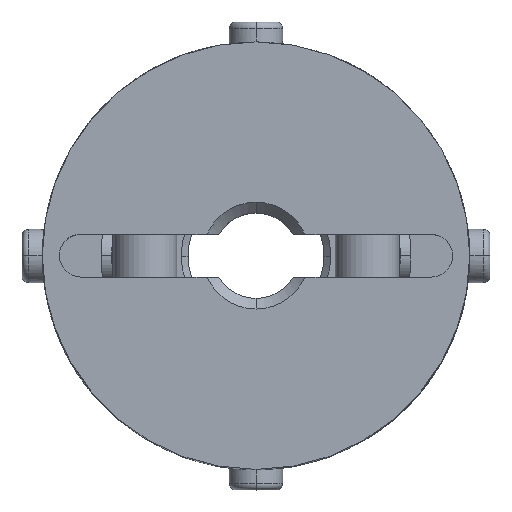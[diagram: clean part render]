
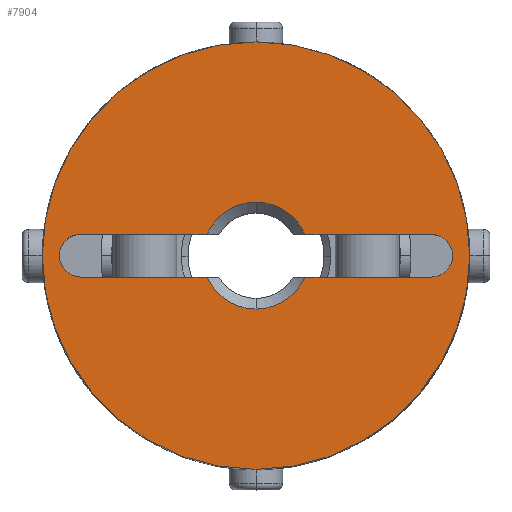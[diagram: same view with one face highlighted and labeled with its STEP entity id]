
A CAD part, top view. The second image highlights one B-rep face of the part: STEP entity #7904.
In plain terms, the highlighted planar face has unit normal (0, 0, 1).
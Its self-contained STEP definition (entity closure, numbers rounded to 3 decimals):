
#633=CARTESIAN_POINT('',(-8.907,-0.707,10.0));
#634=VERTEX_POINT('',#633);
#650=CARTESIAN_POINT('',(-8.2,1.,10.0));
#651=VERTEX_POINT('',#650);
#658=CARTESIAN_POINT('',(-8.2,0.,10.0));
#659=DIRECTION('',(0.0,0.0,1.0));
#660=DIRECTION('',(-0.707,0.707,0.0));
#661=AXIS2_PLACEMENT_3D('',#658,#659,#660);
#662=CIRCLE('',#661,1.);
#663=EDGE_CURVE('',#651,#634,#662,.T.);
#675=CARTESIAN_POINT('',(8.907,0.707,10.0));
#676=VERTEX_POINT('',#675);
#692=CARTESIAN_POINT('',(8.2,-1.,10.0));
#693=VERTEX_POINT('',#692);
#700=CARTESIAN_POINT('',(8.2,0.,10.0));
#701=DIRECTION('',(0.0,0.0,1.0));
#702=DIRECTION('',(0.707,-0.707,0.0));
#703=AXIS2_PLACEMENT_3D('',#700,#701,#702);
#704=CIRCLE('',#703,1.0);
#705=EDGE_CURVE('',#693,#676,#704,.T.);
#715=CARTESIAN_POINT('',(0.,-2.5,10.0));
#716=VERTEX_POINT('',#715);
#724=CARTESIAN_POINT('',(-2.291,-1.,10.0));
#725=VERTEX_POINT('',#724);
#739=CARTESIAN_POINT('',(0.,0.,10.0));
#740=DIRECTION('',(0.0,0.0,1.0));
#741=DIRECTION('',(0.0,-1.0,0.0));
#742=AXIS2_PLACEMENT_3D('',#739,#740,#741);
#743=CIRCLE('',#742,2.5);
#744=EDGE_CURVE('',#725,#716,#743,.T.);
#756=CARTESIAN_POINT('',(0.,2.5,10.0));
#757=VERTEX_POINT('',#756);
#773=CARTESIAN_POINT('',(2.291,1.,10.0));
#774=VERTEX_POINT('',#773);
#788=CARTESIAN_POINT('',(0.,0.,10.0));
#789=DIRECTION('',(0.0,0.0,1.0));
#790=DIRECTION('',(0.0,1.0,0.0));
#791=AXIS2_PLACEMENT_3D('',#788,#789,#790);
#792=CIRCLE('',#791,2.5);
#793=EDGE_CURVE('',#774,#757,#792,.T.);
#1385=CARTESIAN_POINT('',(0.,-10.0,10.0));
#1386=VERTEX_POINT('',#1385);
#1393=CARTESIAN_POINT('',(0.,10.0,10.0));
#1394=VERTEX_POINT('',#1393);
#1395=CARTESIAN_POINT('',(0.0,0.0,10.0));
#1396=DIRECTION('',(0.0,0.0,-1.0));
#1397=DIRECTION('',(0.0,1.0,0.0));
#1398=AXIS2_PLACEMENT_3D('',#1395,#1396,#1397);
#1399=CIRCLE('',#1398,10.0);
#1400=EDGE_CURVE('',#1386,#1394,#1399,.T.);
#7211=CARTESIAN_POINT('',(0.0,0.0,10.0));
#7212=DIRECTION('',(0.0,0.0,-1.0));
#7213=DIRECTION('',(0.0,1.0,0.0));
#7214=AXIS2_PLACEMENT_3D('',#7211,#7212,#7213);
#7215=CIRCLE('',#7214,10.0);
#7216=EDGE_CURVE('',#1394,#1386,#7215,.T.);
#7700=CARTESIAN_POINT('',(2.291,-1.,10.0));
#7701=VERTEX_POINT('',#7700);
#7715=CARTESIAN_POINT('',(8.2,-1.,10.0));
#7716=DIRECTION('',(-1.0,0.0,0.0));
#7717=VECTOR('',#7716,5.909);
#7718=LINE('',#7715,#7717);
#7719=EDGE_CURVE('',#693,#7701,#7718,.T.);
#7778=CARTESIAN_POINT('',(8.2,1.,10.0));
#7779=VERTEX_POINT('',#7778);
#7786=CARTESIAN_POINT('',(2.291,1.,10.0));
#7787=DIRECTION('',(1.0,0.0,0.0));
#7788=VECTOR('',#7787,5.909);
#7789=LINE('',#7786,#7788);
#7790=EDGE_CURVE('',#774,#7779,#7789,.T.);
#7807=CARTESIAN_POINT('',(-2.291,1.,10.0));
#7808=VERTEX_POINT('',#7807);
#7809=CARTESIAN_POINT('',(0.,0.,10.0));
#7810=DIRECTION('',(0.0,0.0,1.0));
#7811=DIRECTION('',(0.0,1.0,0.0));
#7812=AXIS2_PLACEMENT_3D('',#7809,#7810,#7811);
#7813=CIRCLE('',#7812,2.5);
#7814=EDGE_CURVE('',#757,#7808,#7813,.T.);
#7841=CARTESIAN_POINT('',(-8.2,1.,10.0));
#7842=DIRECTION('',(1.0,0.0,0.0));
#7843=VECTOR('',#7842,5.909);
#7844=LINE('',#7841,#7843);
#7845=EDGE_CURVE('',#651,#7808,#7844,.T.);
#7856=CARTESIAN_POINT('',(0.,0.909,10.0));
#7857=DIRECTION('',(0.0,0.0,1.0));
#7858=DIRECTION('',(0.0,1.0,0.0));
#7859=AXIS2_PLACEMENT_3D('',#7856,#7857,#7858);
#7860=PLANE('',#7859);
#7861=ORIENTED_EDGE('',*,*,#7216,.F.);
#7862=ORIENTED_EDGE('',*,*,#1400,.F.);
#7863=EDGE_LOOP('',(#7861,#7862));
#7864=FACE_OUTER_BOUND('',#7863,.T.);
#7865=ORIENTED_EDGE('',*,*,#793,.F.);
#7866=ORIENTED_EDGE('',*,*,#7790,.T.);
#7867=CARTESIAN_POINT('',(8.2,0.,10.0));
#7868=DIRECTION('',(0.0,0.0,1.0));
#7869=DIRECTION('',(0.707,-0.707,0.0));
#7870=AXIS2_PLACEMENT_3D('',#7867,#7868,#7869);
#7871=CIRCLE('',#7870,1.0);
#7872=EDGE_CURVE('',#676,#7779,#7871,.T.);
#7873=ORIENTED_EDGE('',*,*,#7872,.F.);
#7874=ORIENTED_EDGE('',*,*,#705,.F.);
#7875=ORIENTED_EDGE('',*,*,#7719,.T.);
#7876=CARTESIAN_POINT('',(0.,0.,10.0));
#7877=DIRECTION('',(0.0,0.0,1.0));
#7878=DIRECTION('',(0.0,-1.0,0.0));
#7879=AXIS2_PLACEMENT_3D('',#7876,#7877,#7878);
#7880=CIRCLE('',#7879,2.5);
#7881=EDGE_CURVE('',#716,#7701,#7880,.T.);
#7882=ORIENTED_EDGE('',*,*,#7881,.F.);
#7883=ORIENTED_EDGE('',*,*,#744,.F.);
#7884=CARTESIAN_POINT('',(-8.2,-1.,10.0));
#7885=VERTEX_POINT('',#7884);
#7886=CARTESIAN_POINT('',(-2.291,-1.,10.0));
#7887=DIRECTION('',(-1.0,0.0,0.0));
#7888=VECTOR('',#7887,5.909);
#7889=LINE('',#7886,#7888);
#7890=EDGE_CURVE('',#725,#7885,#7889,.T.);
#7891=ORIENTED_EDGE('',*,*,#7890,.T.);
#7892=CARTESIAN_POINT('',(-8.2,0.,10.0));
#7893=DIRECTION('',(0.0,0.0,1.0));
#7894=DIRECTION('',(-0.707,0.707,0.0));
#7895=AXIS2_PLACEMENT_3D('',#7892,#7893,#7894);
#7896=CIRCLE('',#7895,1.);
#7897=EDGE_CURVE('',#634,#7885,#7896,.T.);
#7898=ORIENTED_EDGE('',*,*,#7897,.F.);
#7899=ORIENTED_EDGE('',*,*,#663,.F.);
#7900=ORIENTED_EDGE('',*,*,#7845,.T.);
#7901=ORIENTED_EDGE('',*,*,#7814,.F.);
#7902=EDGE_LOOP('',(#7865,#7866,#7873,#7874,#7875,#7882,#7883,#7891,#7898,#7899,#7900,#7901));
#7903=FACE_BOUND('',#7902,.T.);
#7904=ADVANCED_FACE('',(#7864,#7903),#7860,.T.);
